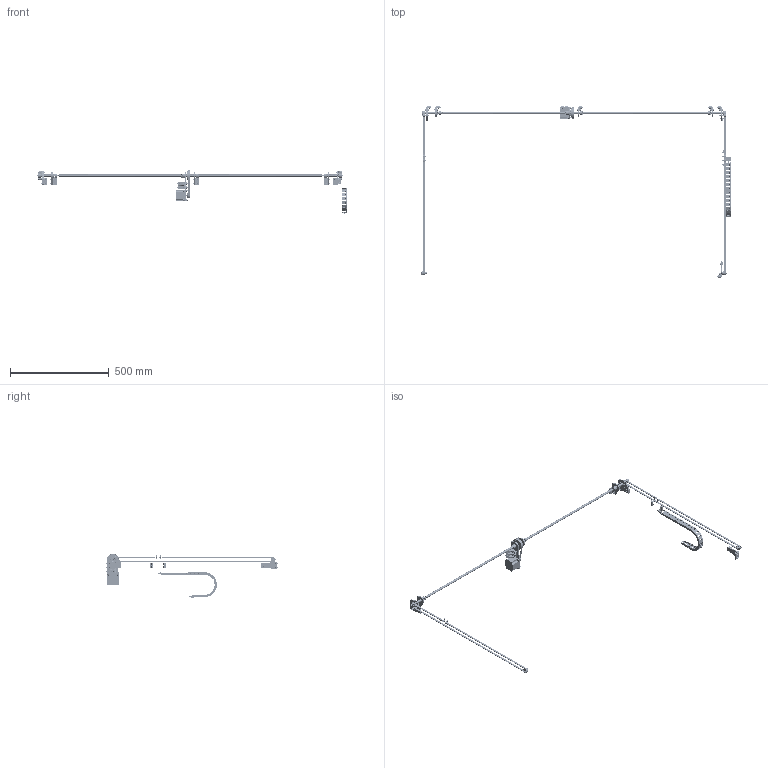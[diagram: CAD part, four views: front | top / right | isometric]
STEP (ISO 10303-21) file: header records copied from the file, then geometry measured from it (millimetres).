
FILE_DESCRIPTION(/* description */ (''),/* implementation_level */ '2;1');
FILE_NAME(/* name */ 'y-drive',/* time_stamp */ '2013-11-26T23:55:41+01:00',/* author */ (''),/* organization */ (''),/* preprocessor_version */ 'ST-DEVELOPER v14',/* originating_system */ '',/* authorisation */ '');
FILE_SCHEMA (('AUTOMOTIVE_DESIGN'));
Products named in the file (29): Document; washer Schnorr-like, lock, M3; screw DIN912-like, M3x16; nut DIN934-like, M3; tslot nut, pre, M3; screw DIN912-like, M3x10; angle bracket, double; nut DIN985-like, lock, M5; washer DIN9021-like, form G, M5; screw DIN912-like, M5x08; nut tslot, post, M5; ball bearing 6x19x6mm; washer DIN9021-like, form G, M4; screw DIN912-like, adhesive, M4x15; angle bracket, heavy, double; screw DIN912-like, M5x10; screw DIN912-like, M5x20; washer DIN125-like, form A, M5; nut DIN985-like, lock, M4; screw DIN912-like, M5x16; screw ISO7380-like, button, M5x06; MHPUS102; screw DIN7984-like, low, M5x16; ball bearing 5x19x6mm; screw DIN912-like, adhesive, M5x25; ball bearing 5x14x5mm; screw DIN7984-like, low, M5x30; nut DIN985, nyloc thin, M5; washer DIN125, form A, M5
Assembly tree (160 placements, depth 2):
  Document
    washer Schnorr-like, lock, M3  x10
    screw DIN912-like, M3x16  x2
    nut DIN934-like, M3  x2
    tslot nut, pre, M3  x2
    screw DIN912-like, M3x10  x2
    angle bracket, double  x4
    nut DIN985-like, lock, M5  x10
    washer DIN9021-like, form G, M5  x9
    screw DIN912-like, M5x08  x8
    nut tslot, post, M5  x16
    ball bearing 6x19x6mm  x4
    washer DIN9021-like, form G, M4  x4
    screw DIN912-like, adhesive, M4x15  x2
    angle bracket, heavy, double
    screw DIN912-like, M5x10  x4
    screw DIN912-like, M5x20  x8
    washer DIN125-like, form A, M5  x10
    nut DIN985-like, lock, M4  x2
    screw DIN912-like, M5x16  x6
    screw ISO7380-like, button, M5x06
    MHPUS102  x22
    screw DIN7984-like, low, M5x16  x2
    ball bearing 5x19x6mm  x2
    screw DIN912-like, adhesive, M5x25
    ball bearing 5x14x5mm  x4
    screw DIN7984-like, low, M5x30  x2
    nut DIN985, nyloc thin, M5  x2
    washer DIN125, form A, M5  x18
Bounding box: 1568.7 x 870.4 x 224.65 mm (x, y, z)
Volume: 374220 mm3; surface area: 433780.5 mm2
Topology: 186 solids, 5014 shells, 8899 faces, 26641 edges, 22878 vertices
Faces by surface type: bspline 4953, plane 3946
Entity records: 416009 total; most frequent: CARTESIAN_POINT 229043, B_SPLINE_CURVE_WITH_KNOTS 25968, ORIENTED_EDGE 21010, PCURVE 21010, DEFINITIONAL_REPRESENTATION 21010, SURFACE_CURVE 15310, EDGE_CURVE 15310, VERTEX_POINT 13143
